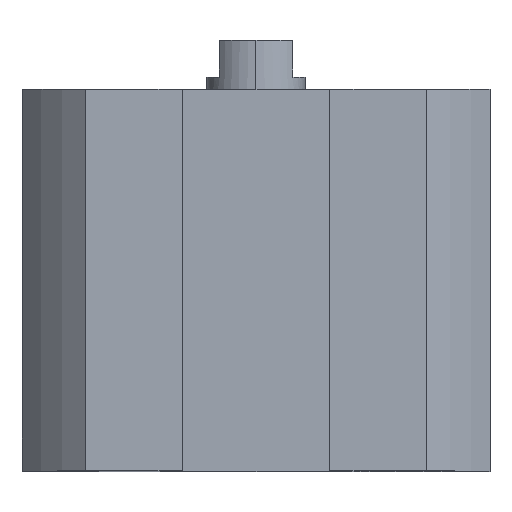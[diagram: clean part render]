
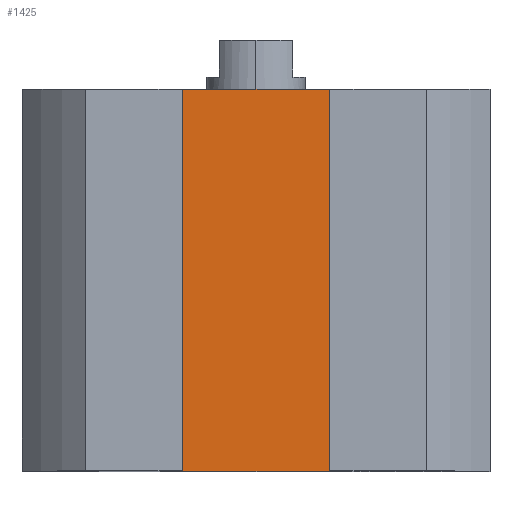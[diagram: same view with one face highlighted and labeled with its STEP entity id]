
A CAD part, top view. The second image highlights one B-rep face of the part: STEP entity #1425.
In plain terms, the highlighted planar face has unit normal (0, 0, 1).
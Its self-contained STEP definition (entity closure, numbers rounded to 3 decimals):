
#22 = VECTOR ( 'NONE', #2519, 1000. ) ;
#111 = CARTESIAN_POINT ( 'NONE',  ( 0., -31., 12.75 ) ) ;
#173 = AXIS2_PLACEMENT_3D ( 'NONE', #712, #1718, #281 ) ;
#221 = DIRECTION ( 'NONE',  ( 1., 0., 0. ) ) ;
#235 = CARTESIAN_POINT ( 'NONE',  ( -7.75, 0., 12.75 ) ) ;
#281 = DIRECTION ( 'NONE',  ( 1., 0., 0. ) ) ;
#586 = ORIENTED_EDGE ( 'NONE', *, *, #725, .F. ) ;
#638 = LINE ( 'NONE', #1663, #854 ) ;
#649 = DIRECTION ( 'NONE',  ( 0., 1., 0. ) ) ;
#712 = CARTESIAN_POINT ( 'NONE',  ( 0., -31., 12.75 ) ) ;
#725 = EDGE_CURVE ( 'NONE', #2631, #1761, #638, .T. ) ;
#751 = EDGE_LOOP ( 'NONE', ( #586, #1439, #2480, #1865 ) ) ;
#835 = CARTESIAN_POINT ( 'NONE',  ( -7.75, -31., 12.75 ) ) ;
#850 = FACE_OUTER_BOUND ( 'NONE', #751, .T. ) ;
#854 = VECTOR ( 'NONE', #221, 1000. ) ;
#937 = DIRECTION ( 'NONE',  ( 1., 0., 0. ) ) ;
#939 = EDGE_CURVE ( 'NONE', #2525, #2019, #1707, .T. ) ;
#978 = VECTOR ( 'NONE', #649, 1000. ) ;
#1081 = CARTESIAN_POINT ( 'NONE',  ( 7.75, -31., 12.75 ) ) ;
#1235 = VECTOR ( 'NONE', #937, 1000. ) ;
#1287 = PLANE ( 'NONE',  #173 ) ;
#1395 = EDGE_CURVE ( 'NONE', #2525, #2631, #2474, .T. ) ;
#1425 = ADVANCED_FACE ( 'NONE', ( #850 ), #1287, .T. ) ;
#1439 = ORIENTED_EDGE ( 'NONE', *, *, #1395, .F. ) ;
#1481 = EDGE_CURVE ( 'NONE', #2019, #1761, #1737, .T. ) ;
#1663 = CARTESIAN_POINT ( 'NONE',  ( 0., 0., 12.75 ) ) ;
#1707 = LINE ( 'NONE', #111, #1235 ) ;
#1718 = DIRECTION ( 'NONE',  ( 0., 0., 1. ) ) ;
#1737 = LINE ( 'NONE', #1081, #22 ) ;
#1761 = VERTEX_POINT ( 'NONE', #2416 ) ;
#1865 = ORIENTED_EDGE ( 'NONE', *, *, #1481, .T. ) ;
#2008 = CARTESIAN_POINT ( 'NONE',  ( -7.75, -31., 12.75 ) ) ;
#2019 = VERTEX_POINT ( 'NONE', #2544 ) ;
#2416 = CARTESIAN_POINT ( 'NONE',  ( 7.75, 0., 12.75 ) ) ;
#2474 = LINE ( 'NONE', #835, #978 ) ;
#2480 = ORIENTED_EDGE ( 'NONE', *, *, #939, .T. ) ;
#2519 = DIRECTION ( 'NONE',  ( 0., 1., 0. ) ) ;
#2525 = VERTEX_POINT ( 'NONE', #2008 ) ;
#2544 = CARTESIAN_POINT ( 'NONE',  ( 7.75, -31., 12.75 ) ) ;
#2631 = VERTEX_POINT ( 'NONE', #235 ) ;
